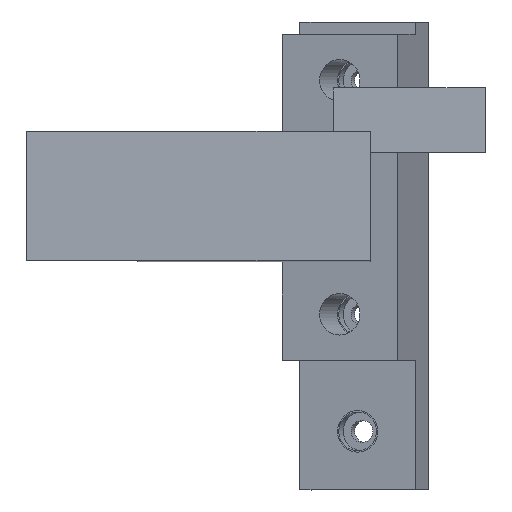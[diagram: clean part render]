
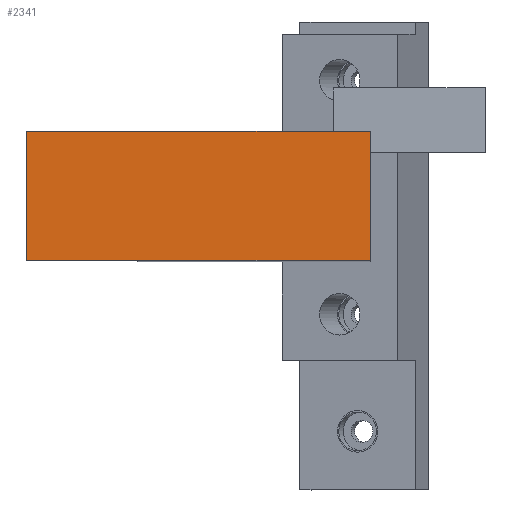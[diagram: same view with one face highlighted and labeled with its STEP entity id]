
A CAD part, top view. The second image highlights one B-rep face of the part: STEP entity #2341.
In plain terms, the highlighted planar face has unit normal (0, 0, 1).
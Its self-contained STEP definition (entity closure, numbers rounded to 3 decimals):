
#211 = PLANE('',#212);
#212 = AXIS2_PLACEMENT_3D('',#213,#214,#215);
#213 = CARTESIAN_POINT('',(-40.,48.2,-180.2));
#214 = DIRECTION('',(0.,1.,0.));
#215 = DIRECTION('',(0.,0.,1.));
#263 = PLANE('',#264);
#264 = AXIS2_PLACEMENT_3D('',#265,#266,#267);
#265 = CARTESIAN_POINT('',(-40.,20.2,-180.2));
#266 = DIRECTION('',(0.,1.,0.));
#267 = DIRECTION('',(0.,0.,1.));
#756 = PLANE('',#757);
#757 = AXIS2_PLACEMENT_3D('',#758,#759,#760);
#758 = CARTESIAN_POINT('',(10.5,20.2,-180.2));
#759 = DIRECTION('',(1.,0.,0.));
#760 = DIRECTION('',(0.,0.,1.));
#1051 = VERTEX_POINT('',#1052);
#1052 = CARTESIAN_POINT('',(-64.064,20.2,
    23.675));
#1066 = PLANE('',#1067);
#1067 = AXIS2_PLACEMENT_3D('',#1068,#1069,#1070);
#1068 = CARTESIAN_POINT('',(-64.064,20.2,
    17.675));
#1069 = DIRECTION('',(1.,0.,0.));
#1070 = DIRECTION('',(0.,0.,1.));
#1078 = EDGE_CURVE('',#1079,#1051,#1081,.T.);
#1079 = VERTEX_POINT('',#1080);
#1080 = CARTESIAN_POINT('',(10.5,20.2,23.675));
#1081 = SURFACE_CURVE('',#1082,(#1086,#1093),.PCURVE_S1.);
#1082 = LINE('',#1083,#1084);
#1083 = CARTESIAN_POINT('',(10.5,20.2,23.675));
#1084 = VECTOR('',#1085,1.);
#1085 = DIRECTION('',(-1.,0.,0.));
#1086 = PCURVE('',#263,#1087);
#1087 = DEFINITIONAL_REPRESENTATION('',(#1088),#1092);
#1088 = LINE('',#1089,#1090);
#1089 = CARTESIAN_POINT('',(203.875,50.5));
#1090 = VECTOR('',#1091,1.);
#1091 = DIRECTION('',(0.,-1.));
#1092 = ( GEOMETRIC_REPRESENTATION_CONTEXT(2) 
PARAMETRIC_REPRESENTATION_CONTEXT() REPRESENTATION_CONTEXT('2D SPACE',''
  ) );
#1093 = PCURVE('',#1094,#1099);
#1094 = PLANE('',#1095);
#1095 = AXIS2_PLACEMENT_3D('',#1096,#1097,#1098);
#1096 = CARTESIAN_POINT('',(-23.632,20.2,
    23.675));
#1097 = DIRECTION('',(0.,0.,1.));
#1098 = DIRECTION('',(1.,0.,0.));
#1099 = DEFINITIONAL_REPRESENTATION('',(#1100),#1104);
#1100 = LINE('',#1101,#1102);
#1101 = CARTESIAN_POINT('',(34.132,0.));
#1102 = VECTOR('',#1103,1.);
#1103 = DIRECTION('',(-1.,0.));
#1104 = ( GEOMETRIC_REPRESENTATION_CONTEXT(2) 
PARAMETRIC_REPRESENTATION_CONTEXT() REPRESENTATION_CONTEXT('2D SPACE',''
  ) );
#1390 = VERTEX_POINT('',#1391);
#1391 = CARTESIAN_POINT('',(-64.064,48.2,
    23.675));
#1412 = EDGE_CURVE('',#1390,#1413,#1415,.T.);
#1413 = VERTEX_POINT('',#1414);
#1414 = CARTESIAN_POINT('',(10.5,48.2,23.675));
#1415 = SURFACE_CURVE('',#1416,(#1420,#1427),.PCURVE_S1.);
#1416 = LINE('',#1417,#1418);
#1417 = CARTESIAN_POINT('',(-64.064,48.2,
    23.675));
#1418 = VECTOR('',#1419,1.);
#1419 = DIRECTION('',(1.,0.,0.));
#1420 = PCURVE('',#211,#1421);
#1421 = DEFINITIONAL_REPRESENTATION('',(#1422),#1426);
#1422 = LINE('',#1423,#1424);
#1423 = CARTESIAN_POINT('',(203.875,-24.064));
#1424 = VECTOR('',#1425,1.);
#1425 = DIRECTION('',(0.,1.));
#1426 = ( GEOMETRIC_REPRESENTATION_CONTEXT(2) 
PARAMETRIC_REPRESENTATION_CONTEXT() REPRESENTATION_CONTEXT('2D SPACE',''
  ) );
#1427 = PCURVE('',#1094,#1428);
#1428 = DEFINITIONAL_REPRESENTATION('',(#1429),#1433);
#1429 = LINE('',#1430,#1431);
#1430 = CARTESIAN_POINT('',(-40.432,28.));
#1431 = VECTOR('',#1432,1.);
#1432 = DIRECTION('',(1.,0.));
#1433 = ( GEOMETRIC_REPRESENTATION_CONTEXT(2) 
PARAMETRIC_REPRESENTATION_CONTEXT() REPRESENTATION_CONTEXT('2D SPACE',''
  ) );
#2176 = EDGE_CURVE('',#1079,#1413,#2177,.T.);
#2177 = SURFACE_CURVE('',#2178,(#2182,#2189),.PCURVE_S1.);
#2178 = LINE('',#2179,#2180);
#2179 = CARTESIAN_POINT('',(10.5,20.2,23.675));
#2180 = VECTOR('',#2181,1.);
#2181 = DIRECTION('',(0.,1.,0.));
#2182 = PCURVE('',#756,#2183);
#2183 = DEFINITIONAL_REPRESENTATION('',(#2184),#2188);
#2184 = LINE('',#2185,#2186);
#2185 = CARTESIAN_POINT('',(203.875,0.));
#2186 = VECTOR('',#2187,1.);
#2187 = DIRECTION('',(0.,-1.));
#2188 = ( GEOMETRIC_REPRESENTATION_CONTEXT(2) 
PARAMETRIC_REPRESENTATION_CONTEXT() REPRESENTATION_CONTEXT('2D SPACE',''
  ) );
#2189 = PCURVE('',#1094,#2190);
#2190 = DEFINITIONAL_REPRESENTATION('',(#2191),#2195);
#2191 = LINE('',#2192,#2193);
#2192 = CARTESIAN_POINT('',(34.132,0.));
#2193 = VECTOR('',#2194,1.);
#2194 = DIRECTION('',(0.,1.));
#2195 = ( GEOMETRIC_REPRESENTATION_CONTEXT(2) 
PARAMETRIC_REPRESENTATION_CONTEXT() REPRESENTATION_CONTEXT('2D SPACE',''
  ) );
#2341 = ADVANCED_FACE('',(#2342),#1094,.T.);
#2342 = FACE_BOUND('',#2343,.T.);
#2343 = EDGE_LOOP('',(#2344,#2345,#2366,#2367));
#2344 = ORIENTED_EDGE('',*,*,#1412,.F.);
#2345 = ORIENTED_EDGE('',*,*,#2346,.F.);
#2346 = EDGE_CURVE('',#1051,#1390,#2347,.T.);
#2347 = SURFACE_CURVE('',#2348,(#2352,#2359),.PCURVE_S1.);
#2348 = LINE('',#2349,#2350);
#2349 = CARTESIAN_POINT('',(-64.064,20.2,
    23.675));
#2350 = VECTOR('',#2351,1.);
#2351 = DIRECTION('',(0.,1.,0.));
#2352 = PCURVE('',#1094,#2353);
#2353 = DEFINITIONAL_REPRESENTATION('',(#2354),#2358);
#2354 = LINE('',#2355,#2356);
#2355 = CARTESIAN_POINT('',(-40.432,0.));
#2356 = VECTOR('',#2357,1.);
#2357 = DIRECTION('',(0.,1.));
#2358 = ( GEOMETRIC_REPRESENTATION_CONTEXT(2) 
PARAMETRIC_REPRESENTATION_CONTEXT() REPRESENTATION_CONTEXT('2D SPACE',''
  ) );
#2359 = PCURVE('',#1066,#2360);
#2360 = DEFINITIONAL_REPRESENTATION('',(#2361),#2365);
#2361 = LINE('',#2362,#2363);
#2362 = CARTESIAN_POINT('',(6.,0.));
#2363 = VECTOR('',#2364,1.);
#2364 = DIRECTION('',(0.,-1.));
#2365 = ( GEOMETRIC_REPRESENTATION_CONTEXT(2) 
PARAMETRIC_REPRESENTATION_CONTEXT() REPRESENTATION_CONTEXT('2D SPACE',''
  ) );
#2366 = ORIENTED_EDGE('',*,*,#1078,.F.);
#2367 = ORIENTED_EDGE('',*,*,#2176,.T.);
